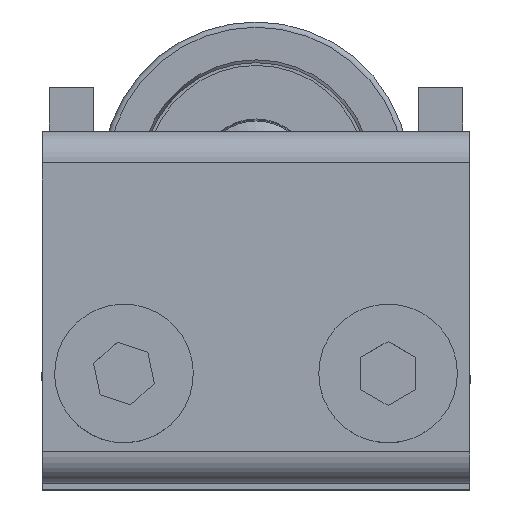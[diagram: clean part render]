
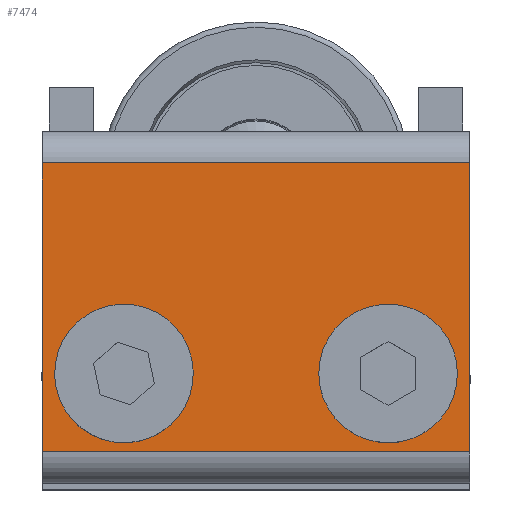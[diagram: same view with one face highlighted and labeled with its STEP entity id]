
A CAD part, top view. The second image highlights one B-rep face of the part: STEP entity #7474.
In plain terms, the highlighted planar face has unit normal (0, 0, 1) as drawn and (0, 0, -1) by its records, which use the part's own axes.
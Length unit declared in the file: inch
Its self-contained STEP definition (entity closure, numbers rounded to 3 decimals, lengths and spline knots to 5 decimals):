
#7211=DIRECTION('',(0.,-1.,0.));
#7212=VECTOR('',#7211,0.82);
#7213=CARTESIAN_POINT('',(0.6075,0.41,-0.18));
#7214=LINE('',#7213,#7212);
#7215=CARTESIAN_POINT('',(0.375,-0.188,-0.18));
#7216=DIRECTION('',(0.,0.,1.));
#7217=DIRECTION('',(1.,0.,0.));
#7218=AXIS2_PLACEMENT_3D('',#7215,#7216,#7217);
#7220=CARTESIAN_POINT('',(0.375,-0.188,-0.18));
#7221=DIRECTION('',(0.,0.,1.));
#7222=DIRECTION('',(-1.,0.,0.));
#7223=AXIS2_PLACEMENT_3D('',#7220,#7221,#7222);
#7225=CARTESIAN_POINT('',(-0.375,-0.188,-0.18));
#7226=DIRECTION('',(0.,0.,1.));
#7227=DIRECTION('',(1.,0.,0.));
#7228=AXIS2_PLACEMENT_3D('',#7225,#7226,#7227);
#7230=CARTESIAN_POINT('',(-0.375,-0.188,-0.18));
#7231=DIRECTION('',(0.,0.,1.));
#7232=DIRECTION('',(-1.,0.,0.));
#7233=AXIS2_PLACEMENT_3D('',#7230,#7231,#7232);
#7265=DIRECTION('',(0.,-1.,0.));
#7266=VECTOR('',#7265,0.82);
#7267=CARTESIAN_POINT('',(-0.6075,0.41,-0.18));
#7268=LINE('',#7267,#7266);
#7295=DIRECTION('',(-1.,0.,0.));
#7296=VECTOR('',#7295,1.215);
#7297=CARTESIAN_POINT('',(0.6075,0.41,-0.18));
#7298=LINE('',#7297,#7296);
#7383=DIRECTION('',(1.,0.,0.));
#7384=VECTOR('',#7383,1.215);
#7385=CARTESIAN_POINT('',(-0.6075,-0.41,-0.18));
#7386=LINE('',#7385,#7384);
#7399=CARTESIAN_POINT('',(-0.6075,-0.41,-0.18));
#7401=VERTEX_POINT('',#7399);
#7410=CARTESIAN_POINT('',(-0.6075,0.41,-0.18));
#7412=VERTEX_POINT('',#7410);
#7419=CARTESIAN_POINT('',(0.6075,0.41,-0.18));
#7420=VERTEX_POINT('',#7419);
#7427=CARTESIAN_POINT('',(0.5,-0.188,-0.18));
#7428=CARTESIAN_POINT('',(0.25,-0.188,-0.18));
#7429=VERTEX_POINT('',#7427);
#7430=VERTEX_POINT('',#7428);
#7439=CARTESIAN_POINT('',(-0.5,-0.188,-0.18));
#7440=CARTESIAN_POINT('',(-0.25,-0.188,-0.18));
#7441=VERTEX_POINT('',#7439);
#7442=VERTEX_POINT('',#7440);
#7445=CARTESIAN_POINT('',(0.6075,-0.41,-0.18));
#7446=VERTEX_POINT('',#7445);
#7447=CARTESIAN_POINT('',(0.6075,0.5,-0.18));
#7448=DIRECTION('',(0.,0.,1.));
#7449=DIRECTION('',(0.,-1.,0.));
#7450=AXIS2_PLACEMENT_3D('',#7447,#7448,#7449);
#7451=PLANE('',#7450);
#7453=ORIENTED_EDGE('',*,*,#7452,.F.);
#7455=ORIENTED_EDGE('',*,*,#7454,.T.);
#7457=ORIENTED_EDGE('',*,*,#7456,.T.);
#7459=ORIENTED_EDGE('',*,*,#7458,.T.);
#7460=EDGE_LOOP('',(#7453,#7455,#7457,#7459));
#7461=FACE_OUTER_BOUND('',#7460,.F.);
#7463=ORIENTED_EDGE('',*,*,#7462,.F.);
#7465=ORIENTED_EDGE('',*,*,#7464,.F.);
#7466=EDGE_LOOP('',(#7463,#7465));
#7467=FACE_BOUND('',#7466,.F.);
#7469=ORIENTED_EDGE('',*,*,#7468,.F.);
#7471=ORIENTED_EDGE('',*,*,#7470,.F.);
#7472=EDGE_LOOP('',(#7469,#7471));
#7473=FACE_BOUND('',#7472,.F.);
#7219=CIRCLE('',#7218,0.125);
#7224=CIRCLE('',#7223,0.125);
#7229=CIRCLE('',#7228,0.125);
#7234=CIRCLE('',#7233,0.125);
#7452=EDGE_CURVE('',#7420,#7446,#7214,.T.);
#7454=EDGE_CURVE('',#7420,#7412,#7298,.T.);
#7456=EDGE_CURVE('',#7412,#7401,#7268,.T.);
#7458=EDGE_CURVE('',#7401,#7446,#7386,.T.);
#7462=EDGE_CURVE('',#7429,#7430,#7219,.T.);
#7464=EDGE_CURVE('',#7430,#7429,#7224,.T.);
#7468=EDGE_CURVE('',#7442,#7441,#7229,.T.);
#7470=EDGE_CURVE('',#7441,#7442,#7234,.T.);
#7474=ADVANCED_FACE('',(#7461,#7467,#7473),#7451,.F.);
